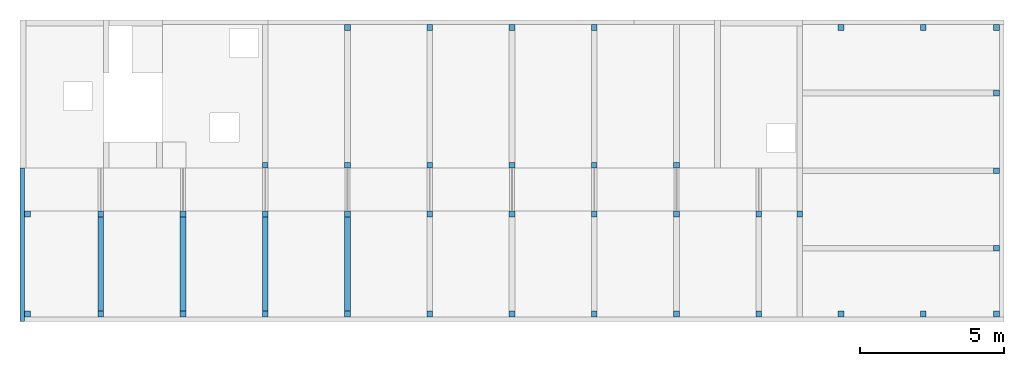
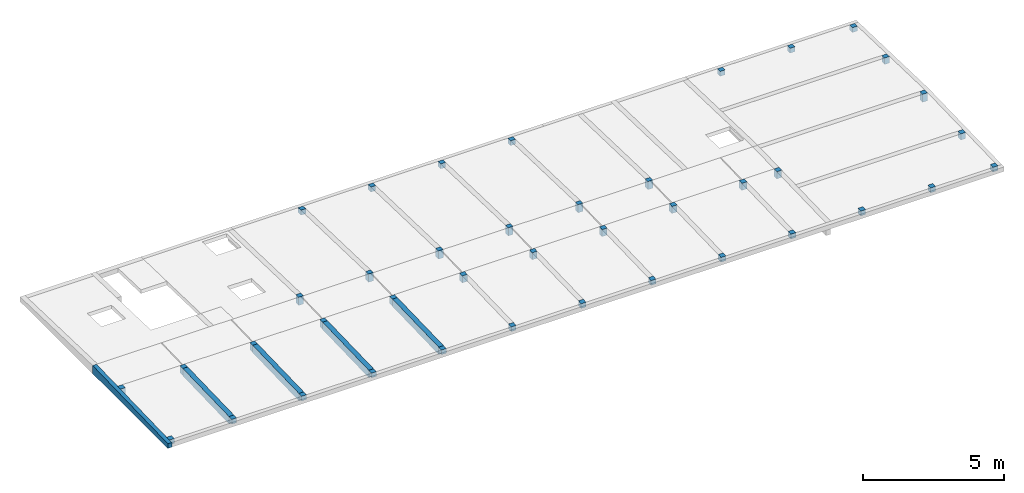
# One storey, part 1 of 5: 40 columns, 5 beams.
"""IFC4 building model written with IfcOpenShell, lengths in metres."""

import ifcopenshell
import ifcopenshell.guid

model = None  # the IFC model being written
_history = None  # IfcOwnerHistory: only IFC2X3 demands one
_inside = {}  # id of a spatial element -> (the spatial element, [elements in it])
_under = {}  # id of a project, library or spatial element -> (it, [spatial elements below it])
_declared = {}  # id of a project -> (the project, [libraries it declares])
_typed = {}  # id of a type object -> (the type object, [elements of that type])
_made_of = {}  # id of a material, layer set ... -> (it, [elements and type objects made of it])


def new_model(schema):
    """Start an empty IFC model of exactly this schema.

    Asked for "IFC4X3", IfcOpenShell would pick the latest addendum, in which some entities
    have other attributes; the version numbers below select the first issue.
    IFC2X3 requires an IfcOwnerHistory on every rooted entity: one is made here for all.
    """
    global model, _history
    if schema == "IFC4X3":
        model = ifcopenshell.file(schema_version=(4, 3, 0, 0))
    else:
        model = ifcopenshell.file(schema=schema)
    _inside.clear()
    _under.clear()
    _declared.clear()
    _typed.clear()
    _made_of.clear()
    _history = None
    if model.schema == "IFC2X3":
        org = make("IfcOrganization", Name="unknown")
        user = make(
            "IfcPersonAndOrganization",
            ThePerson=make("IfcPerson", FamilyName="unknown"),
            TheOrganization=org,
        )
        app = make(
            "IfcApplication",
            ApplicationDeveloper=org,
            Version="unknown",
            ApplicationFullName="unknown",
            ApplicationIdentifier="unknown",
        )
        _history = make(
            "IfcOwnerHistory",
            OwningUser=user,
            OwningApplication=app,
            ChangeAction="ADDED",
            CreationDate=0,
        )
    return model


def make(cls, **values):
    """One entity of the class cls with the attributes given. An attribute that is None is left unset."""
    return model.create_entity(
        cls, **{name: value for name, value in values.items() if value is not None}
    )


def entity(cls, *values):
    """Any entity or typed value of the class cls, its attributes in the order of the schema. None: left unset."""
    e = model.create_entity(cls)
    for i, value in enumerate(values):
        if value is not None:
            e[i] = value
    return e


def rooted(cls, **values):
    """An entity with a GlobalId (a new one), such as an element, a storey or a relation."""
    return make(cls, GlobalId=ifcopenshell.guid.new(), OwnerHistory=_history, **values)


def si_unit(unit_type, name, prefix=None):
    """IfcSIUnit, for example si_unit("LENGTHUNIT", "METRE", prefix="MILLI")."""
    return make("IfcSIUnit", UnitType=unit_type, Prefix=prefix, Name=name)


def converted_unit(unit_type, name, factor, base, dimensions=None, offset=None):
    """IfcConversionBasedUnit, such as the inch: factor (a typed value) times the base unit."""
    return make(
        "IfcConversionBasedUnit"
        if offset is None
        else "IfcConversionBasedUnitWithOffset",
        ConversionOffset=offset,
        Dimensions=None
        if dimensions is None
        else entity("IfcDimensionalExponents", *dimensions),
        UnitType=unit_type,
        Name=name,
        ConversionFactor=make(
            "IfcMeasureWithUnit", ValueComponent=factor, UnitComponent=base
        ),
    )


def derived_unit(unit_type, elements):
    """IfcDerivedUnit: a product of units, each with its exponent."""
    return make(
        "IfcDerivedUnit",
        Elements=[
            make("IfcDerivedUnitElement", Unit=unit, Exponent=power)
            for unit, power in elements
        ],
        UnitType=unit_type,
    )


def assignment(units):
    """IfcUnitAssignment: the units of a project."""
    return None if units is None else make("IfcUnitAssignment", Units=units)


def point(xyz):
    """IfcCartesianPoint."""
    return None if xyz is None else make("IfcCartesianPoint", Coordinates=xyz)


def direction(xyz):
    """IfcDirection."""
    return None if xyz is None else make("IfcDirection", DirectionRatios=xyz)


def frame(location, z_axis=None, x_axis=None):
    """IfcAxis2Placement3D, a coordinate frame: its origin and axes. An axis left out is left unset."""
    return make(
        "IfcAxis2Placement3D",
        Location=point(location),
        Axis=direction(z_axis),
        RefDirection=direction(x_axis),
    )


def frame_2d(location, x_axis=None):
    """IfcAxis2Placement2D, a coordinate frame in the plane: its origin and x axis."""
    return make(
        "IfcAxis2Placement2D", Location=point(location), RefDirection=direction(x_axis)
    )


def origin():
    """The frame at (0, 0, 0) with its axes left unset."""
    return frame((0.0, 0.0, 0.0))


def origin_with_axes():
    """The frame at (0, 0, 0) with the z axis (0, 0, 1) and the x axis (1, 0, 0) written out."""
    return frame((0.0, 0.0, 0.0), z_axis=(0.0, 0.0, 1.0), x_axis=(1.0, 0.0, 0.0))


def place(relative_to, where):
    """IfcLocalPlacement: puts the frame where relative to a parent placement (None: the world)."""
    return make(
        "IfcLocalPlacement", PlacementRelTo=relative_to, RelativePlacement=where
    )


def context(
    kind, dimensions, precision=None, world=None, true_north=None, identifier=None
):
    """IfcGeometricRepresentationContext, for example the 3D "Model" context."""
    return make(
        "IfcGeometricRepresentationContext",
        ContextIdentifier=identifier,
        ContextType=kind,
        CoordinateSpaceDimension=dimensions,
        Precision=precision,
        WorldCoordinateSystem=world,
        TrueNorth=true_north,
    )


def subcontext(parent, identifier, kind, view, scale=None):
    """IfcGeometricRepresentationSubContext, for example "Body" below "Model"."""
    return make(
        "IfcGeometricRepresentationSubContext",
        ContextIdentifier=identifier,
        ContextType=kind,
        ParentContext=parent,
        TargetScale=scale,
        TargetView=view,
    )


def project(units=None, contexts=None):
    """IfcProject with its units and contexts."""
    return rooted(
        "IfcProject",
        Name="project",
        RepresentationContexts=contexts,
        UnitsInContext=assignment(units),
    )


def spatial(cls, under=None, at=None, **own):
    """A site, building, storey or space (cls), placed at a placement, below another one or the project."""
    s = rooted(cls, ObjectPlacement=at, **own)
    if under is not None:
        _under.setdefault(under.id(), (under, []))[1].append(s)
    return s


def polyline(points):
    """IfcPolyline through the points."""
    return make("IfcPolyline", Points=[point(p) for p in points])


def profile(cls, at=None, kind="AREA", **sizes):
    """A parametric profile (cls). Its sizes go by their IFC names, for example OverallWidth=200.0."""
    return make(cls, ProfileType=kind, Position=at, **sizes)


def rectangle(**sizes):
    """IfcRectangleProfileDef."""
    return profile("IfcRectangleProfileDef", **sizes)


def extrude(swept, where, along, depth):
    """IfcExtrudedAreaSolid: the profile swept, set in the frame where, extruded along a direction by depth."""
    return make(
        "IfcExtrudedAreaSolid",
        SweptArea=swept,
        Position=where,
        ExtrudedDirection=direction(along),
        Depth=depth,
    )


def clip(a, b, op="DIFFERENCE"):
    """IfcBooleanClippingResult: the solid a cut by the half space b."""
    return make(
        "IfcBooleanClippingResult", Operator=op, FirstOperand=a, SecondOperand=b
    )


def halfspace(plane, agree):
    """IfcHalfSpaceSolid: all space on one side of the plane z = 0 of the frame plane."""
    return make(
        "IfcHalfSpaceSolid",
        BaseSurface=make("IfcPlane", Position=plane),
        AgreementFlag=agree,
    )


def bounded_halfspace(plane, agree, where, boundary):
    """IfcPolygonalBoundedHalfSpace: a half space limited to a polygon's prism."""
    return make(
        "IfcPolygonalBoundedHalfSpace",
        BaseSurface=make("IfcPlane", Position=plane),
        AgreementFlag=agree,
        Position=where,
        PolygonalBoundary=boundary,
    )


def shape(context_of_items, identifier, shape_type, items):
    """IfcShapeRepresentation: the items that make up one representation, for example the "Body"."""
    return make(
        "IfcShapeRepresentation",
        ContextOfItems=context_of_items,
        RepresentationIdentifier=identifier,
        RepresentationType=shape_type,
        Items=items,
    )


def material(Name=None, Category=None):
    """IfcMaterial."""
    return make("IfcMaterial", Name=Name, Category=Category)


def made_of(thing, what):
    """Note that an element or type object is made of a material, layer set ...; save() writes the relation."""
    if what is not None:
        _made_of.setdefault(what.id(), (what, []))[1].append(thing)
    return thing


def element(
    cls,
    number,
    at=None,
    inside=None,
    cuts=None,
    type_object=None,
    material=None,
    context=None,
    identifier="Body",
    shape_type=None,
    held_by="IfcProductDefinitionShape",
    body=None,
    shapes=None,
    **own,
):
    """One element of the class cls, such as IfcWall. Its Tag is "e" and its number.

    at: its placement. inside: the storey or other place that contains it. cuts: it is an
    opening in that element (IfcRelVoidsElement). A single representation is given by context,
    identifier, shape_type and body (its items); several are given by shapes. held_by: the class
    of the entity that holds the representations. save() writes the other relations.
    """
    e = rooted(cls, Tag="e%d" % number, ObjectPlacement=at, **own)
    if body is not None:
        shapes = [shape(context, identifier, shape_type, body)]
    if shapes is not None:
        e.Representation = make(held_by, Representations=shapes)
    if inside is not None:
        _inside.setdefault(inside.id(), (inside, []))[1].append(e)
    if cuts is not None:
        rooted(
            "IfcRelVoidsElement", RelatingBuildingElement=cuts, RelatedOpeningElement=e
        )
    if type_object is not None:
        _typed.setdefault(type_object.id(), (type_object, []))[1].append(e)
    return made_of(e, material)


def aggregate(whole, parts):
    """IfcRelAggregates: a whole, such as a stair, and the parts it consists of."""
    return rooted("IfcRelAggregates", RelatingObject=whole, RelatedObjects=parts)


def save(model, path):
    """Write the relations noted so far, then the file.

    IfcRelAggregates (storeys below a building ...), IfcRelContainedInSpatialStructure (elements
    in a storey), IfcRelDefinesByType, IfcRelAssociatesMaterial and IfcRelDeclares: one each for
    every whole, place, type object, material and project.
    """
    for whole, parts in _under.values():
        aggregate(whole, parts)
    for where, things in _inside.values():
        rooted(
            "IfcRelContainedInSpatialStructure",
            RelatedElements=things,
            RelatingStructure=where,
        )
    for kind, things in _typed.values():
        rooted("IfcRelDefinesByType", RelatedObjects=things, RelatingType=kind)
    for what, things in _made_of.values():
        rooted("IfcRelAssociatesMaterial", RelatedObjects=things, RelatingMaterial=what)
    for by, libraries in _declared.values():
        rooted("IfcRelDeclares", RelatingContext=by, RelatedDefinitions=libraries)
    model.write(path)


model = new_model("IFC4")

# Units and contexts
model_context = context("Model", 3, precision=1e-05, world=origin())
plan_context = context("Plan", 2, precision=1e-05, world=origin())
body_context = subcontext(model_context, "Body", "Model", "MODEL_VIEW")
ifc_project = project(units=[si_unit("LENGTHUNIT", "METRE"), si_unit("AREAUNIT", "SQUARE_METRE"), si_unit("VOLUMEUNIT", "CUBIC_METRE"), si_unit("MASSUNIT", "GRAM", prefix="KILO"), converted_unit("PLANEANGLEUNIT", "DEGREE", entity("IfcPlaneAngleMeasure", 0.0174532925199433), si_unit("PLANEANGLEUNIT", "RADIAN"), dimensions=[0, 0, 0, 0, 0, 0, 0]), derived_unit("THERMALTRANSMITTANCEUNIT", [(si_unit("POWERUNIT", "WATT"), 1), (si_unit("THERMODYNAMICTEMPERATUREUNIT", "KELVIN"), -1), (si_unit("LENGTHUNIT", "METRE"), -2)]), derived_unit("VOLUMETRICFLOWRATEUNIT", [(si_unit("LENGTHUNIT", "METRE"), 3), (converted_unit("TIMEUNIT", "hour", entity("IfcTimeMeasure", 3600.0), si_unit("TIMEUNIT", "SECOND"), dimensions=[0, 0, 1, 0, 0, 0, 0]), -1), (si_unit("LENGTHUNIT", "METRE"), -1)])], contexts=[model_context, plan_context])

# Site, building, storey
site_placement = place(None, origin())
site = spatial("IfcSite", under=ifc_project, at=site_placement, Name="Site", CompositionType="ELEMENT")
building_placement = place(site_placement, origin())
building = spatial("IfcBuilding", under=site, at=building_placement, Name="Admin", CompositionType="ELEMENT")
storey_placement = place(building_placement, frame((0.0, 0.0, 9.64)))
storey = spatial("IfcBuildingStorey", under=building, at=storey_placement, Name="03-Toiture", CompositionType="ELEMENT", Elevation=9.64)

# Columns
ifc_material_1 = material(Name="GL24h")
column_1_placement = place(storey_placement, frame((26.709801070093, 15.499449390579, -0.16)))
element("IfcColumn", 1, at=column_1_placement, inside=storey, material=ifc_material_1, Name="Colonnes bois R+2", PredefinedType="COLUMN", context=body_context, shape_type="Clipping", body=[
    clip(extrude(rectangle(XDim=0.200000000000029, YDim=0.2, at=frame_2d((0.100000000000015, 0.1), x_axis=(1.0, 0.0))), origin_with_axes(), (0.0, 0.0, 1.0), 0.311020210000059), halfspace(frame((0.100000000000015, 0.1, 0.308121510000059), z_axis=(0.0, 0.0289748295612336, -0.999580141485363), x_axis=(1.0, 0.0, 0.0)), True)),
])
ifc_material_2 = material(Name="GL24h")
column_2_placement = place(storey_placement, frame((24.159801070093, 15.499449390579, -0.16)))
element("IfcColumn", 2, at=column_2_placement, inside=storey, material=ifc_material_2, Name="Colonnes bois R+2", PredefinedType="COLUMN", context=body_context, shape_type="Clipping", body=[
    clip(extrude(rectangle(XDim=0.200000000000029, YDim=0.2, at=frame_2d((0.100000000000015, 0.1), x_axis=(1.0, 0.0))), origin_with_axes(), (0.0, 0.0, 1.0), 0.311020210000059), halfspace(frame((0.100000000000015, 0.1, 0.308121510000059), z_axis=(0.0, 0.0289748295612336, -0.999580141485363), x_axis=(1.0, 0.0, 0.0)), True)),
])
ifc_material_3 = material(Name="GL24h")
column_3_placement = place(storey_placement, frame((32.4298006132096, 17.199449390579, -0.16)))
element("IfcColumn", 3, at=column_3_placement, inside=storey, material=ifc_material_3, Name="Colonnes bois R+2", PredefinedType="COLUMN", context=body_context, shape_type="Clipping", body=[
    clip(extrude(rectangle(XDim=0.200000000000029, YDim=0.2, at=frame_2d((0.100000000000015, 0.1), x_axis=(1.0, 0.0))), origin_with_axes(), (0.0, 0.0, 1.0), 0.35449999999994), halfspace(frame((0.100000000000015, 0.1, 0.351499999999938), z_axis=(0.0, -0.0299865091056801, -0.999550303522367), x_axis=(1.0, 0.0, 0.0)), True)),
])
ifc_material_4 = material(Name="GL24h")
column_4_placement = place(storey_placement, frame((49.5898006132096, 15.499449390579, -0.16)))
element("IfcColumn", 4, at=column_4_placement, inside=storey, material=ifc_material_4, Name="Colonnes bois R+2", PredefinedType="COLUMN", context=body_context, shape_type="Clipping", body=[
    clip(extrude(rectangle(XDim=0.200000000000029, YDim=0.2, at=frame_2d((0.100000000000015, 0.1), x_axis=(1.0, 0.0))), origin_with_axes(), (0.0, 0.0, 1.0), 0.311020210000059), halfspace(frame((0.100000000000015, 0.1, 0.308121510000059), z_axis=(0.0, 0.0289748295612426, -0.999580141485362), x_axis=(1.0, 0.0, 0.0)), True)),
])
ifc_material_5 = material(Name="GL24h")
column_5_placement = place(storey_placement, frame((49.589801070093, 12.029449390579, -0.16)))
element("IfcColumn", 5, at=column_5_placement, inside=storey, material=ifc_material_5, Name="Colonnes bois R+2", PredefinedType="COLUMN", context=body_context, shape_type="Clipping", body=[
    clip(extrude(rectangle(XDim=0.200000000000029, YDim=0.2, at=frame_2d((0.100000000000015, 0.1), x_axis=(1.0, 0.0))), origin_with_axes(), (0.0, 0.0, 1.0), 0.210435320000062), halfspace(frame((0.100000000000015, 0.1, 0.207536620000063), z_axis=(0.0, 0.0289748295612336, -0.999580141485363), x_axis=(1.0, 0.0, 0.0)), True)),
])
ifc_material_6 = material(Name="GL24h")
column_6_placement = place(storey_placement, frame((38.1498006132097, 17.199449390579, -0.16)))
element("IfcColumn", 6, at=column_6_placement, inside=storey, material=ifc_material_6, Name="Colonnes bois R+2", PredefinedType="COLUMN", context=body_context, shape_type="Clipping", body=[
    clip(extrude(rectangle(XDim=0.200000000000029, YDim=0.2, at=frame_2d((0.100000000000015, 0.1), x_axis=(1.0, 0.0))), origin_with_axes(), (0.0, 0.0, 1.0), 0.35449999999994), halfspace(frame((0.100000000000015, 0.1, 0.351499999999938), z_axis=(0.0, -0.0299865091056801, -0.999550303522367), x_axis=(1.0, 0.0, 0.0)), True)),
])
ifc_material_7 = material(Name="GL24h")
column_7_placement = place(storey_placement, frame((46.7298006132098, 17.199449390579, -0.16)))
element("IfcColumn", 7, at=column_7_placement, inside=storey, material=ifc_material_7, Name="Colonnes bois R+2", PredefinedType="COLUMN", context=body_context, shape_type="Clipping", body=[
    clip(extrude(rectangle(XDim=0.200000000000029, YDim=0.2, at=frame_2d((0.100000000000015, 0.1), x_axis=(1.0, 0.0))), origin_with_axes(), (0.0, 0.0, 1.0), 0.35449999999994), halfspace(frame((0.100000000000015, 0.1, 0.351499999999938), z_axis=(0.0, -0.0299865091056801, -0.999550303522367), x_axis=(1.0, 0.0, 0.0)), True)),
])
ifc_material_8 = material(Name="GL24h")
column_8_placement = place(storey_placement, frame((35.2898006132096, 17.199449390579, -0.16)))
element("IfcColumn", 8, at=column_8_placement, inside=storey, material=ifc_material_8, Name="Colonnes bois R+2", PredefinedType="COLUMN", context=body_context, shape_type="Clipping", body=[
    clip(extrude(rectangle(XDim=0.200000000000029, YDim=0.2, at=frame_2d((0.100000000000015, 0.1), x_axis=(1.0, 0.0))), origin_with_axes(), (0.0, 0.0, 1.0), 0.35449999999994), halfspace(frame((0.100000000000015, 0.1, 0.351499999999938), z_axis=(0.0, -0.0299865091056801, -0.999550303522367), x_axis=(1.0, 0.0, 0.0)), True)),
])
ifc_material_9 = material(Name="GL24h")
column_9_placement = place(storey_placement, frame((35.2898006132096, 21.989449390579, -0.16)))
element("IfcColumn", 9, at=column_9_placement, inside=storey, material=ifc_material_9, Name="Colonnes bois R+2", PredefinedType="COLUMN", context=body_context, shape_type="Clipping", body=[
    clip(extrude(rectangle(XDim=0.200000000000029, YDim=0.2, at=frame_2d((0.100000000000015, 0.1), x_axis=(1.0, 0.0))), origin_with_axes(), (0.0, 0.0, 1.0), 0.210799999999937), halfspace(frame((0.100000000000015, 0.1, 0.207799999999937), z_axis=(0.0, -0.0299865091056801, -0.999550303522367), x_axis=(1.0, 0.0, 0.0)), True)),
])
ifc_material_10 = material(Name="GL24h")
column_10_placement = place(storey_placement, frame((38.1498006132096, 21.989449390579, -0.16)))
element("IfcColumn", 10, at=column_10_placement, inside=storey, material=ifc_material_10, Name="Colonnes bois R+2", PredefinedType="COLUMN", context=body_context, shape_type="Clipping", body=[
    clip(extrude(rectangle(XDim=0.200000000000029, YDim=0.2, at=frame_2d((0.100000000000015, 0.1), x_axis=(1.0, 0.0))), origin_with_axes(), (0.0, 0.0, 1.0), 0.210799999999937), halfspace(frame((0.100000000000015, 0.1, 0.207799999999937), z_axis=(0.0, -0.0299865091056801, -0.999550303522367), x_axis=(1.0, 0.0, 0.0)), True)),
])
ifc_material_11 = material(Name="GL24h")
column_11_placement = place(storey_placement, frame((43.8698006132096, 15.499449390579, -0.16)))
element("IfcColumn", 11, at=column_11_placement, inside=storey, material=ifc_material_11, Name="Colonnes bois R+2", PredefinedType="COLUMN", context=body_context, shape_type="Clipping", body=[
    clip(extrude(rectangle(XDim=0.200000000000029, YDim=0.2, at=frame_2d((0.100000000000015, 0.1), x_axis=(1.0, 0.0))), origin_with_axes(), (0.0, 0.0, 1.0), 0.311020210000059), halfspace(frame((0.100000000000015, 0.1, 0.308121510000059), z_axis=(0.0, 0.0289748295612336, -0.999580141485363), x_axis=(1.0, 0.0, 0.0)), True)),
])
ifc_material_12 = material(Name="GL24h")
column_12_placement = place(storey_placement, frame((41.0098006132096, 15.499449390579, -0.16)))
element("IfcColumn", 12, at=column_12_placement, inside=storey, material=ifc_material_12, Name="Colonnes bois R+2", PredefinedType="COLUMN", context=body_context, shape_type="Clipping", body=[
    clip(extrude(rectangle(XDim=0.200000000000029, YDim=0.2, at=frame_2d((0.100000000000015, 0.1), x_axis=(1.0, 0.0))), origin_with_axes(), (0.0, 0.0, 1.0), 0.311020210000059), halfspace(frame((0.100000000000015, 0.1, 0.308121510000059), z_axis=(0.0, 0.0289748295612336, -0.999580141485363), x_axis=(1.0, 0.0, 0.0)), True)),
])
ifc_material_13 = material(Name="GL24h")
column_13_placement = place(storey_placement, frame((43.869801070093, 12.029449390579, -0.16)))
element("IfcColumn", 13, at=column_13_placement, inside=storey, material=ifc_material_13, Name="Colonnes bois R+2", PredefinedType="COLUMN", context=body_context, shape_type="Clipping", body=[
    clip(extrude(rectangle(XDim=0.200000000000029, YDim=0.2, at=frame_2d((0.100000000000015, 0.1), x_axis=(1.0, 0.0))), origin_with_axes(), (0.0, 0.0, 1.0), 0.210435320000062), halfspace(frame((0.100000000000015, 0.1, 0.207536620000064), z_axis=(0.0, 0.0289748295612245, -0.999580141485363), x_axis=(1.0, 0.0, 0.0)), True)),
])
ifc_material_14 = material(Name="GL24h")
column_14_placement = place(storey_placement, frame((41.009801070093, 12.029449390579, -0.16)))
element("IfcColumn", 14, at=column_14_placement, inside=storey, material=ifc_material_14, Name="Colonnes bois R+2", PredefinedType="COLUMN", context=body_context, shape_type="Clipping", body=[
    clip(extrude(rectangle(XDim=0.200000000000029, YDim=0.2, at=frame_2d((0.100000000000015, 0.1), x_axis=(1.0, 0.0))), origin_with_axes(), (0.0, 0.0, 1.0), 0.210435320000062), halfspace(frame((0.100000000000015, 0.1, 0.207536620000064), z_axis=(0.0, 0.0289748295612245, -0.999580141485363), x_axis=(1.0, 0.0, 0.0)), True)),
])
ifc_material_15 = material(Name="GL24h")
column_15_placement = place(storey_placement, frame((46.7298006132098, 15.499449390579, -0.16)))
element("IfcColumn", 15, at=column_15_placement, inside=storey, material=ifc_material_15, Name="Colonnes bois R+2", PredefinedType="COLUMN", context=body_context, shape_type="Clipping", body=[
    clip(extrude(rectangle(XDim=0.200000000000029, YDim=0.2, at=frame_2d((0.100000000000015, 0.1), x_axis=(1.0, 0.0))), origin_with_axes(), (0.0, 0.0, 1.0), 0.311020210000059), halfspace(frame((0.100000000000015, 0.1, 0.308121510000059), z_axis=(0.0, 0.0289748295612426, -0.999580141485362), x_axis=(1.0, 0.0, 0.0)), True)),
])
ifc_material_16 = material(Name="GL24h")
column_16_placement = place(storey_placement, frame((46.7298010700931, 12.029449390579, -0.16)))
element("IfcColumn", 16, at=column_16_placement, inside=storey, material=ifc_material_16, Name="Colonnes bois R+2", PredefinedType="COLUMN", context=body_context, shape_type="Clipping", body=[
    clip(extrude(rectangle(XDim=0.200000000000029, YDim=0.2, at=frame_2d((0.100000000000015, 0.1), x_axis=(1.0, 0.0))), origin_with_axes(), (0.0, 0.0, 1.0), 0.210435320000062), halfspace(frame((0.100000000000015, 0.1, 0.207536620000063), z_axis=(0.0, 0.0289748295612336, -0.999580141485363), x_axis=(1.0, 0.0, 0.0)), True)),
])
ifc_material_17 = material(Name="GL24h")
column_17_placement = place(storey_placement, frame((38.149801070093, 12.029449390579, -0.16)))
element("IfcColumn", 17, at=column_17_placement, inside=storey, material=ifc_material_17, Name="Colonnes bois R+2", PredefinedType="COLUMN", context=body_context, shape_type="Clipping", body=[
    clip(extrude(rectangle(XDim=0.200000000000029, YDim=0.2, at=frame_2d((0.100000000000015, 0.1), x_axis=(1.0, 0.0))), origin_with_axes(), (0.0, 0.0, 1.0), 0.210435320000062), halfspace(frame((0.100000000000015, 0.1, 0.207536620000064), z_axis=(0.0, 0.0289748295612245, -0.999580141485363), x_axis=(1.0, 0.0, 0.0)), True)),
])
ifc_material_18 = material(Name="GL24h")
column_18_placement = place(storey_placement, frame((38.1498006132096, 15.499449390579, -0.16)))
element("IfcColumn", 18, at=column_18_placement, inside=storey, material=ifc_material_18, Name="Colonnes bois R+2", PredefinedType="COLUMN", context=body_context, shape_type="Clipping", body=[
    clip(extrude(rectangle(XDim=0.200000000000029, YDim=0.2, at=frame_2d((0.100000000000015, 0.1), x_axis=(1.0, 0.0))), origin_with_axes(), (0.0, 0.0, 1.0), 0.311020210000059), halfspace(frame((0.100000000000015, 0.1, 0.308121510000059), z_axis=(0.0, 0.0289748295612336, -0.999580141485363), x_axis=(1.0, 0.0, 0.0)), True)),
])
ifc_material_19 = material(Name="GL24h")
column_19_placement = place(storey_placement, frame((32.4298006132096, 15.499449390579, -0.16)))
element("IfcColumn", 19, at=column_19_placement, inside=storey, material=ifc_material_19, Name="Colonnes bois R+2", PredefinedType="COLUMN", context=body_context, shape_type="Clipping", body=[
    clip(extrude(rectangle(XDim=0.200000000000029, YDim=0.2, at=frame_2d((0.100000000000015, 0.1), x_axis=(1.0, 0.0))), origin_with_axes(), (0.0, 0.0, 1.0), 0.311020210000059), halfspace(frame((0.100000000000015, 0.1, 0.308121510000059), z_axis=(0.0, 0.0289748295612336, -0.999580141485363), x_axis=(1.0, 0.0, 0.0)), True)),
])
ifc_material_20 = material(Name="GL24h")
column_20_placement = place(storey_placement, frame((35.289801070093, 12.029449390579, -0.16)))
element("IfcColumn", 20, at=column_20_placement, inside=storey, material=ifc_material_20, Name="Colonnes bois R+2", PredefinedType="COLUMN", context=body_context, shape_type="Clipping", body=[
    clip(extrude(rectangle(XDim=0.200000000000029, YDim=0.2, at=frame_2d((0.100000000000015, 0.1), x_axis=(1.0, 0.0))), origin_with_axes(), (0.0, 0.0, 1.0), 0.210435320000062), halfspace(frame((0.100000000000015, 0.1, 0.207536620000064), z_axis=(0.0, 0.0289748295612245, -0.999580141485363), x_axis=(1.0, 0.0, 0.0)), True)),
])
ifc_material_21 = material(Name="GL24h")
column_21_placement = place(storey_placement, frame((35.2898006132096, 15.499449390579, -0.16)))
element("IfcColumn", 21, at=column_21_placement, inside=storey, material=ifc_material_21, Name="Colonnes bois R+2", PredefinedType="COLUMN", context=body_context, shape_type="Clipping", body=[
    clip(extrude(rectangle(XDim=0.200000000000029, YDim=0.2, at=frame_2d((0.100000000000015, 0.1), x_axis=(1.0, 0.0))), origin_with_axes(), (0.0, 0.0, 1.0), 0.311020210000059), halfspace(frame((0.100000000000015, 0.1, 0.308121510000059), z_axis=(0.0, 0.0289748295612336, -0.999580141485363), x_axis=(1.0, 0.0, 0.0)), True)),
])
ifc_material_22 = material(Name="GL24h")
column_22_placement = place(storey_placement, frame((29.569801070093, 12.029449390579, -0.16)))
element("IfcColumn", 22, at=column_22_placement, inside=storey, material=ifc_material_22, Name="Colonnes bois R+2", PredefinedType="COLUMN", context=body_context, shape_type="Clipping", body=[
    clip(extrude(rectangle(XDim=0.200000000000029, YDim=0.2, at=frame_2d((0.100000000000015, 0.1), x_axis=(1.0, 0.0))), origin_with_axes(), (0.0, 0.0, 1.0), 0.210435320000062), halfspace(frame((0.100000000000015, 0.1, 0.207536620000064), z_axis=(0.0, 0.0289748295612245, -0.999580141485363), x_axis=(1.0, 0.0, 0.0)), True)),
])
ifc_material_23 = material(Name="GL24h")
column_23_placement = place(storey_placement, frame((29.5698006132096, 15.499449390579, -0.16)))
element("IfcColumn", 23, at=column_23_placement, inside=storey, material=ifc_material_23, Name="Colonnes bois R+2", PredefinedType="COLUMN", context=body_context, shape_type="Clipping", body=[
    clip(extrude(rectangle(XDim=0.200000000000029, YDim=0.2, at=frame_2d((0.100000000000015, 0.1), x_axis=(1.0, 0.0))), origin_with_axes(), (0.0, 0.0, 1.0), 0.311020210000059), halfspace(frame((0.100000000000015, 0.1, 0.308121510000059), z_axis=(0.0, 0.0289748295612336, -0.999580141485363), x_axis=(1.0, 0.0, 0.0)), True)),
])
ifc_material_24 = material(Name="GL24h")
column_24_placement = place(storey_placement, frame((41.0098006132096, 21.989449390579, -0.16)))
element("IfcColumn", 24, at=column_24_placement, inside=storey, material=ifc_material_24, Name="Colonnes bois R+2", PredefinedType="COLUMN", context=body_context, shape_type="Clipping", body=[
    clip(extrude(rectangle(XDim=0.200000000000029, YDim=0.2, at=frame_2d((0.100000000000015, 0.1), x_axis=(1.0, 0.0))), origin_with_axes(), (0.0, 0.0, 1.0), 0.210799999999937), halfspace(frame((0.100000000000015, 0.1, 0.207799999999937), z_axis=(0.0, -0.0299865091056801, -0.999550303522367), x_axis=(1.0, 0.0, 0.0)), True)),
])
ifc_material_25 = material(Name="GL24h")
column_25_placement = place(storey_placement, frame((43.8698006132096, 17.199449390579, -0.16)))
element("IfcColumn", 25, at=column_25_placement, inside=storey, material=ifc_material_25, Name="Colonnes bois R+2", PredefinedType="COLUMN", context=body_context, shape_type="Clipping", body=[
    clip(extrude(rectangle(XDim=0.200000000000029, YDim=0.2, at=frame_2d((0.100000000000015, 0.1), x_axis=(1.0, 0.0))), origin_with_axes(), (0.0, 0.0, 1.0), 0.35449999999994), halfspace(frame((0.100000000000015, 0.1, 0.351499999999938), z_axis=(0.0, -0.0299865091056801, -0.999550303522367), x_axis=(1.0, 0.0, 0.0)), True)),
])
ifc_material_26 = material(Name="GL24h")
column_26_placement = place(storey_placement, frame((41.0098006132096, 17.199449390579, -0.16)))
element("IfcColumn", 26, at=column_26_placement, inside=storey, material=ifc_material_26, Name="Colonnes bois R+2", PredefinedType="COLUMN", context=body_context, shape_type="Clipping", body=[
    clip(extrude(rectangle(XDim=0.200000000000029, YDim=0.2, at=frame_2d((0.100000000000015, 0.1), x_axis=(1.0, 0.0))), origin_with_axes(), (0.0, 0.0, 1.0), 0.35449999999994), halfspace(frame((0.100000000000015, 0.1, 0.351499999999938), z_axis=(0.0, -0.0299865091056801, -0.999550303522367), x_axis=(1.0, 0.0, 0.0)), True)),
])
ifc_material_27 = material(Name="GL24h")
column_27_placement = place(storey_placement, frame((43.8698006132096, 21.989449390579, -0.16)))
element("IfcColumn", 27, at=column_27_placement, inside=storey, material=ifc_material_27, Name="Colonnes bois R+2", PredefinedType="COLUMN", context=body_context, shape_type="Clipping", body=[
    clip(extrude(rectangle(XDim=0.200000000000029, YDim=0.2, at=frame_2d((0.100000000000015, 0.1), x_axis=(1.0, 0.0))), origin_with_axes(), (0.0, 0.0, 1.0), 0.210799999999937), halfspace(frame((0.100000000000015, 0.1, 0.207799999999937), z_axis=(0.0, -0.0299865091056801, -0.999550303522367), x_axis=(1.0, 0.0, 0.0)), True)),
])
ifc_material_28 = material(Name="GL24h")
column_28_placement = place(storey_placement, frame((52.4498006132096, 12.029449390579, -0.16)))
element("IfcColumn", 28, at=column_28_placement, inside=storey, material=ifc_material_28, Name="Colonnes bois R+2", PredefinedType="COLUMN", context=body_context, shape_type="Clipping", body=[
    clip(extrude(rectangle(XDim=0.200000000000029, YDim=0.2, at=frame_2d((0.100000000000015, 0.1), x_axis=(1.0, 0.0))), origin_with_axes(), (0.0, 0.0, 1.0), 0.210435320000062), halfspace(frame((0.100000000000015, 0.1, 0.207536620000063), z_axis=(0.0, 0.0289748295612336, -0.999580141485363), x_axis=(1.0, 0.0, 0.0)), True)),
])
ifc_material_29 = material(Name="GL24h")
column_29_placement = place(storey_placement, frame((57.8598006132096, 14.309449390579, -0.16)))
element("IfcColumn", 29, at=column_29_placement, inside=storey, material=ifc_material_29, Name="Colonnes bois R+2", PredefinedType="COLUMN", context=body_context, shape_type="Clipping", body=[
    clip(extrude(rectangle(XDim=0.200000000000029, YDim=0.2, at=frame_2d((0.100000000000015, 0.1), x_axis=(1.0, 0.0))), origin_with_axes(), (0.0, 0.0, 1.0), 0.276525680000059), halfspace(frame((0.100000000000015, 0.1, 0.273626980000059), z_axis=(0.0, 0.0289748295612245, -0.999580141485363), x_axis=(1.0, 0.0, 0.0)), True)),
])
ifc_material_30 = material(Name="GL24h")
column_30_placement = place(storey_placement, frame((55.3098006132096, 12.029449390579, -0.16)))
element("IfcColumn", 30, at=column_30_placement, inside=storey, material=ifc_material_30, Name="Colonnes bois R+2", PredefinedType="COLUMN", context=body_context, shape_type="Clipping", body=[
    clip(extrude(rectangle(XDim=0.200000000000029, YDim=0.2, at=frame_2d((0.100000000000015, 0.1), x_axis=(1.0, 0.0))), origin_with_axes(), (0.0, 0.0, 1.0), 0.210435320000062), halfspace(frame((0.100000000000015, 0.1, 0.207536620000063), z_axis=(0.0, 0.0289748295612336, -0.999580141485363), x_axis=(1.0, 0.0, 0.0)), True)),
])
ifc_material_31 = material(Name="GL24h")
column_31_placement = place(storey_placement, frame((57.8598006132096, 12.029449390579, -0.16)))
element("IfcColumn", 31, at=column_31_placement, inside=storey, material=ifc_material_31, Name="Colonnes bois R+2", PredefinedType="COLUMN", context=body_context, shape_type="Clipping", body=[
    clip(extrude(rectangle(XDim=0.200000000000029, YDim=0.2, at=frame_2d((0.100000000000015, 0.1), x_axis=(1.0, 0.0))), origin_with_axes(), (0.0, 0.0, 1.0), 0.210435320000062), halfspace(frame((0.100000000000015, 0.1, 0.207536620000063), z_axis=(0.0, 0.0289748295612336, -0.999580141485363), x_axis=(1.0, 0.0, 0.0)), True)),
])
ifc_material_32 = material(Name="GL24h")
column_32_placement = place(storey_placement, frame((57.8598006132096, 17.009449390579, -0.16)))
element("IfcColumn", 32, at=column_32_placement, inside=storey, material=ifc_material_32, Name="Colonnes bois R+2", PredefinedType="COLUMN", context=body_context, shape_type="Clipping", body=[
    clip(clip(extrude(rectangle(XDim=0.200000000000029, YDim=0.2, at=frame_2d((0.100000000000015, 0.1), x_axis=(1.0, 0.0))), origin_with_axes(), (0.0, 0.0, 1.0), 0.354500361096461), bounded_halfspace(frame((0.100000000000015, 0.094993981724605, 0.35174677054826), z_axis=(0.0, 0.0289748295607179, -0.999580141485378), x_axis=(0.0, 0.999580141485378, 0.0289748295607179)), True, origin_with_axes(), polyline([(0.200000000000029, 0.0), (0.200000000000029, 0.18998796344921), (0.0, 0.18998796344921), (0.0, 0.0), (0.200000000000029, 0.0)]))), bounded_halfspace(frame((0.100000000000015, 0.194993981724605, 0.354350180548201), z_axis=(5.54194821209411e-20, -0.0299865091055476, -0.999550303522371), x_axis=(0.0, -0.999550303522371, 0.0299865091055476)), True, origin_with_axes(), polyline([(0.0, 0.2), (0.0, 0.18998796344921), (0.200000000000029, 0.18998796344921), (0.200000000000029, 0.2), (0.0, 0.2)]))),
])
ifc_material_33 = material(Name="GL24h")
column_33_placement = place(storey_placement, frame((57.8598001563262, 21.989449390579, -0.16)))
element("IfcColumn", 33, at=column_33_placement, inside=storey, material=ifc_material_33, Name="Colonnes bois R+2", PredefinedType="COLUMN", context=body_context, shape_type="Clipping", body=[
    clip(extrude(rectangle(XDim=0.200000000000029, YDim=0.2, at=frame_2d((0.100000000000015, 0.1), x_axis=(1.0, 0.0))), origin_with_axes(), (0.0, 0.0, 1.0), 0.210799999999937), halfspace(frame((0.100000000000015, 0.1, 0.207799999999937), z_axis=(0.0, -0.0299865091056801, -0.999550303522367), x_axis=(1.0, 0.0, 0.0)), True)),
])
ifc_material_34 = material(Name="GL24h")
column_34_placement = place(storey_placement, frame((55.3098001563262, 21.989449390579, -0.16)))
element("IfcColumn", 34, at=column_34_placement, inside=storey, material=ifc_material_34, Name="Colonnes bois R+2", PredefinedType="COLUMN", context=body_context, shape_type="Clipping", body=[
    clip(extrude(rectangle(XDim=0.200000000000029, YDim=0.2, at=frame_2d((0.100000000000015, 0.1), x_axis=(1.0, 0.0))), origin_with_axes(), (0.0, 0.0, 1.0), 0.210799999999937), halfspace(frame((0.100000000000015, 0.1, 0.207799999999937), z_axis=(0.0, -0.0299865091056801, -0.999550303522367), x_axis=(1.0, 0.0, 0.0)), True)),
])
ifc_material_35 = material(Name="GL24h")
column_35_placement = place(storey_placement, frame((57.8598006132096, 19.709449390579, -0.16)))
element("IfcColumn", 35, at=column_35_placement, inside=storey, material=ifc_material_35, Name="Colonnes bois R+2", PredefinedType="COLUMN", context=body_context, shape_type="Clipping", body=[
    clip(extrude(rectangle(XDim=0.200000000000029, YDim=0.2, at=frame_2d((0.100000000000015, 0.1), x_axis=(1.0, 0.0))), origin_with_axes(), (0.0, 0.0, 1.0), 0.279199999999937), halfspace(frame((0.100000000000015, 0.1, 0.276199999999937), z_axis=(0.0, -0.029986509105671, -0.999550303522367), x_axis=(1.0, 0.0, 0.0)), True)),
])
ifc_material_36 = material(Name="GL24h")
column_36_placement = place(storey_placement, frame((52.4498006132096, 21.989449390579, -0.16)))
element("IfcColumn", 36, at=column_36_placement, inside=storey, material=ifc_material_36, Name="Colonnes bois R+2", PredefinedType="COLUMN", context=body_context, shape_type="Clipping", body=[
    clip(extrude(rectangle(XDim=0.200000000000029, YDim=0.2, at=frame_2d((0.100000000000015, 0.1), x_axis=(1.0, 0.0))), origin_with_axes(), (0.0, 0.0, 1.0), 0.210799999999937), halfspace(frame((0.100000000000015, 0.1, 0.207799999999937), z_axis=(0.0, -0.0299865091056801, -0.999550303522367), x_axis=(1.0, 0.0, 0.0)), True)),
])
ifc_material_37 = material(Name="GL24h")
column_37_placement = place(storey_placement, frame((26.7098015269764, 12.029449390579, -0.16)))
element("IfcColumn", 37, at=column_37_placement, inside=storey, material=ifc_material_37, Name="Colonnes bois R+2", PredefinedType="COLUMN", context=body_context, shape_type="Clipping", body=[
    clip(extrude(rectangle(XDim=0.200000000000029, YDim=0.2, at=frame_2d((0.100000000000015, 0.1), x_axis=(1.0, 0.0))), origin_with_axes(), (0.0, 0.0, 1.0), 0.210435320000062), halfspace(frame((0.100000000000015, 0.1, 0.207536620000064), z_axis=(0.0, 0.0289748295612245, -0.999580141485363), x_axis=(1.0, 0.0, 0.0)), True)),
])
ifc_material_38 = material(Name="GL24h")
column_38_placement = place(storey_placement, frame((24.1598015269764, 12.029449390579, -0.16)))
element("IfcColumn", 38, at=column_38_placement, inside=storey, material=ifc_material_38, Name="Colonnes bois R+2", PredefinedType="COLUMN", context=body_context, shape_type="Clipping", body=[
    clip(extrude(rectangle(XDim=0.200000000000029, YDim=0.2, at=frame_2d((0.100000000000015, 0.1), x_axis=(1.0, 0.0))), origin_with_axes(), (0.0, 0.0, 1.0), 0.210435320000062), halfspace(frame((0.100000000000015, 0.1, 0.207536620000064), z_axis=(0.0, 0.0289748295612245, -0.999580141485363), x_axis=(1.0, 0.0, 0.0)), True)),
])
ifc_material_39 = material(Name="GL24h")
column_39_placement = place(storey_placement, frame((32.429801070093, 12.029449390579, -0.16)))
element("IfcColumn", 39, at=column_39_placement, inside=storey, material=ifc_material_39, Name="Colonnes bois R+2", PredefinedType="COLUMN", context=body_context, shape_type="Clipping", body=[
    clip(extrude(rectangle(XDim=0.200000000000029, YDim=0.2, at=frame_2d((0.100000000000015, 0.1), x_axis=(1.0, 0.0))), origin_with_axes(), (0.0, 0.0, 1.0), 0.210435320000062), halfspace(frame((0.100000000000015, 0.1, 0.207536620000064), z_axis=(0.0, 0.0289748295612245, -0.999580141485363), x_axis=(1.0, 0.0, 0.0)), True)),
])
ifc_material_40 = material(Name="C30/37")
column_40_placement = place(storey_placement, frame((51.01980059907, 15.499449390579, -0.16)))
element("IfcColumn", 40, at=column_40_placement, inside=storey, material=ifc_material_40, Name="C BA 2.01", PredefinedType="COLUMN", context=body_context, shape_type="Clipping", body=[
    clip(extrude(rectangle(XDim=0.2, YDim=0.2, at=frame_2d((0.1, 0.1), x_axis=(1.0, 0.0))), origin_with_axes(), (0.0, 0.0, 1.0), 0.311020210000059), halfspace(frame((0.1, 0.1, 0.308121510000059), z_axis=(0.0, 0.0289748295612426, -0.999580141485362), x_axis=(1.0, 0.0, 0.0)), True)),
])

# Beams
ifc_material_41 = material(Name="CLT")
beam_1_placement = place(storey_placement, frame((24.1598015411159, 11.869449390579, -0.16), z_axis=(0.0, 0.0, 1.0), x_axis=(-8.83720277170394e-08, 0.999999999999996, 0.0)))
element("IfcBeam", 41, at=beam_1_placement, inside=storey, material=ifc_material_41, Name="Poutre CLT Axe 2.A R+2", PredefinedType="NOTDEFINED", context=body_context, shape_type="Clipping", body=[
    clip(extrude(rectangle(XDim=0.160000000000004, YDim=0.354500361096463, at=frame_2d((0.0800000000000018, 0.177250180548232), x_axis=(1.0, 0.0))), frame((0.0, 0.0, 0.0), z_axis=(1.0, 0.0, 0.0), x_axis=(0.0, 1.0, 0.0)), (0.0, 0.0, 1.0), 5.33000000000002), halfspace(frame((2.66499398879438, 0.0800000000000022, 0.277250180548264), z_axis=(0.0289748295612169, -2.56056447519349e-09, -0.999580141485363), x_axis=(-8.83720277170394e-08, -0.999999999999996, 0.0)), True)),
])
ifc_material_42 = material(Name="GL24h")
beam_2_placement = place(storey_placement, frame((26.709801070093, 15.499449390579, -0.269699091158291), z_axis=(0.0, 0.0, 1.0), x_axis=(1.39719693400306e-07, -0.99999999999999, 0.0)))
element("IfcBeam", 42, at=beam_2_placement, inside=storey, material=ifc_material_42, Name="P 2.07 20/32", PredefinedType="NOTDEFINED", context=body_context, shape_type="Clipping", body=[
    clip(clip(extrude(rectangle(XDim=0.2, YDim=0.414921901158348, at=frame_2d((0.1, 0.207460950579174), x_axis=(1.0, 0.0))), frame((0.0, 0.0, 0.0), z_axis=(1.0, 0.0, 0.0), x_axis=(0.0, 1.0, 0.0)), (0.0, 0.0, 1.0), 3.27000000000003), halfspace(frame((1.63500001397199, 0.099999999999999, 0.0473937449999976), z_axis=(0.028974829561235, -4.04835430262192e-09, 0.999580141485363), x_axis=(-1.39719693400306e-07, -0.99999999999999, 0.0)), True)), halfspace(frame((1.63500001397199, 0.099999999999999, 0.367528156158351), z_axis=(-0.0289748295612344, 4.04835430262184e-09, -0.999580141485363), x_axis=(0.999580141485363, -2.64697796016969e-23, -0.0289748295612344)), True)),
])
ifc_material_43 = material(Name="GL24h")
beam_3_placement = place(storey_placement, frame((29.5698006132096, 15.499449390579, -0.269699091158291), z_axis=(0.0, 0.0, 1.0), x_axis=(1.39719693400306e-07, -0.99999999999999, 0.0)))
element("IfcBeam", 43, at=beam_3_placement, inside=storey, material=ifc_material_43, Name="P 2.08 20/32", PredefinedType="NOTDEFINED", context=body_context, shape_type="Clipping", body=[
    clip(clip(extrude(rectangle(XDim=0.199999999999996, YDim=0.414921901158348, at=frame_2d((0.0999999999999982, 0.207460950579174), x_axis=(1.0, 0.0))), frame((0.0, 0.0, 0.0), z_axis=(1.0, 0.0, 0.0), x_axis=(0.0, 1.0, 0.0)), (0.0, 0.0, 1.0), 3.27000000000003), halfspace(frame((1.63500001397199, 0.099999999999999, 0.0473937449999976), z_axis=(0.028974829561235, -4.04835430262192e-09, 0.999580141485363), x_axis=(-1.39719693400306e-07, -0.99999999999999, 0.0)), True)), halfspace(frame((1.63500001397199, 0.099999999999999, 0.367528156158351), z_axis=(-0.0289748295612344, 4.04835430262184e-09, -0.999580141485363), x_axis=(0.999580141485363, -2.64697796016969e-23, -0.0289748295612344)), True)),
])
ifc_material_44 = material(Name="GL24h")
beam_4_placement = place(storey_placement, frame((35.2898006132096, 15.499449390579, -0.269699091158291), z_axis=(0.0, 0.0, 1.0), x_axis=(1.39719693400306e-07, -0.99999999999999, 0.0)))
element("IfcBeam", 44, at=beam_4_placement, inside=storey, material=ifc_material_44, Name="P 2.10 20/32", PredefinedType="NOTDEFINED", context=body_context, shape_type="Clipping", body=[
    clip(clip(extrude(rectangle(XDim=0.199999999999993, YDim=0.414921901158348, at=frame_2d((0.0999999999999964, 0.207460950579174), x_axis=(1.0, 0.0))), frame((0.0, 0.0, 0.0), z_axis=(1.0, 0.0, 0.0), x_axis=(0.0, 1.0, 0.0)), (0.0, 0.0, 1.0), 3.27000000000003), halfspace(frame((1.63500001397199, 0.099999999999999, 0.0473937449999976), z_axis=(0.0289748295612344, -4.04835430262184e-09, 0.999580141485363), x_axis=(-1.39719693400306e-07, -0.99999999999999, 0.0)), True)), halfspace(frame((1.63500001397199, 0.099999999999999, 0.367528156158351), z_axis=(-0.0289748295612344, 4.04835430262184e-09, -0.999580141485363), x_axis=(0.999580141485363, -2.64697796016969e-23, -0.0289748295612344)), True)),
])
ifc_material_45 = material(Name="GL24h")
beam_5_placement = place(storey_placement, frame((32.4298006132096, 15.499449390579, -0.269699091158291), z_axis=(0.0, 0.0, 1.0), x_axis=(1.39719693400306e-07, -0.99999999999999, 0.0)))
element("IfcBeam", 45, at=beam_5_placement, inside=storey, material=ifc_material_45, Name="P 2.09 20/32", PredefinedType="NOTDEFINED", context=body_context, shape_type="Clipping", body=[
    clip(clip(extrude(rectangle(XDim=0.199999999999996, YDim=0.414921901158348, at=frame_2d((0.0999999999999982, 0.207460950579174), x_axis=(1.0, 0.0))), frame((0.0, 0.0, 0.0), z_axis=(1.0, 0.0, 0.0), x_axis=(0.0, 1.0, 0.0)), (0.0, 0.0, 1.0), 3.27000000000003), halfspace(frame((1.63500001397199, 0.099999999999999, 0.0473937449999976), z_axis=(0.0289748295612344, -4.04835430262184e-09, 0.999580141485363), x_axis=(-1.39719693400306e-07, -0.99999999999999, 0.0)), True)), halfspace(frame((1.63500001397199, 0.099999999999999, 0.367528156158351), z_axis=(-0.0289748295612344, 4.04835430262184e-09, -0.999580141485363), x_axis=(0.999580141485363, -2.64697796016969e-23, -0.0289748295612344)), True)),
])

save(model, "model.ifc")
